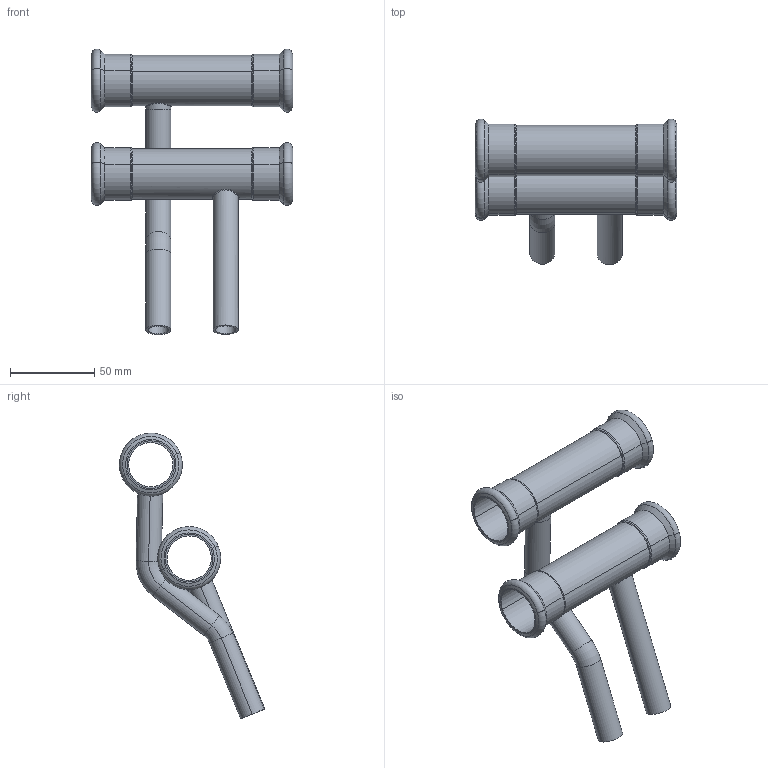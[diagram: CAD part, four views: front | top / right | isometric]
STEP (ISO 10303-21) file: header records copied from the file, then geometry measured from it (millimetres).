
FILE_DESCRIPTION(('CoCreate Modeling STEP Export'),'2;1');
FILE_NAME('C1437 28x15.stp','2015-08-13T 9:33:24',(''),(''),'CoCreate Modeling STEP processor for AP214 (Solid Model)','CoCreate Modeling 17.00A 17-Jun-2010 (C) Parametric Technology GmbH','');
FILE_SCHEMA(('AUTOMOTIVE_DESIGN { 1 0 10303 214 1 1 1 1 }'));
Length unit declared in the file: millimetre
Products named in the file (4): 620869.7.1.2; 620869.7.1.1.1; 620863.1.1.1; C1437-28x15
Assembly tree (3 placements, depth 2):
  C1437-28x15
    620863.1.1.1
    620869.7.1.1.1
    620869.7.1.2
Bounding box: 120.02 x 86.36 x 169.74 mm (x, y, z)
Volume: 55232.6 mm3; surface area: 66635.4 mm2
Topology: 3 solids, 3 shells, 120 faces, 254 edges, 150 vertices
Faces by surface type: cylinder 52, torus 24, cone 24, plane 16, bspline 4
Entity records: 6585 total; most frequent: CARTESIAN_POINT 4280, ORIENTED_EDGE 508, DIRECTION 400, EDGE_CURVE 254, AXIS2_PLACEMENT_3D 162, VERTEX_POINT 150, EDGE_LOOP 140, FACE_OUTER_BOUND 120
